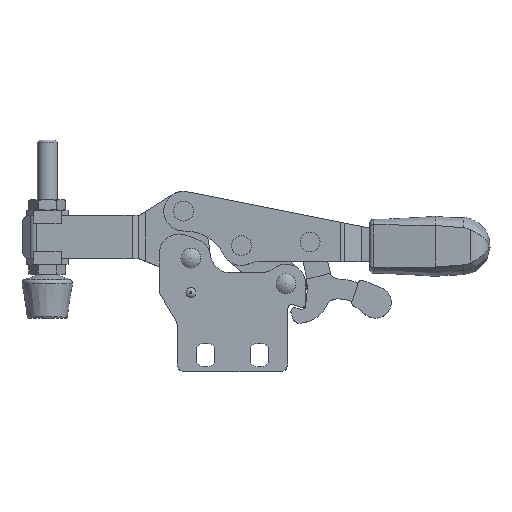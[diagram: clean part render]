
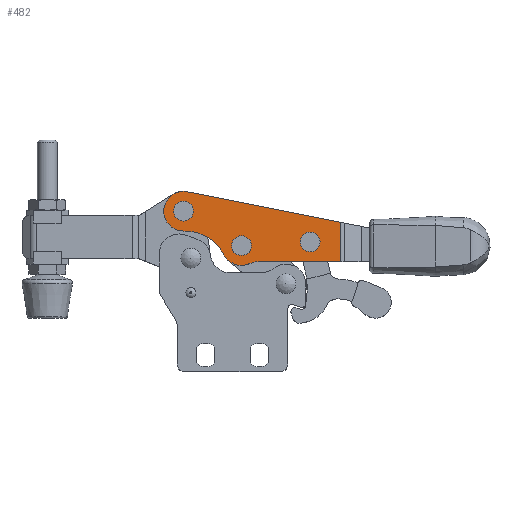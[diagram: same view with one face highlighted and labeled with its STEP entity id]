
A CAD part, top view. The second image highlights one B-rep face of the part: STEP entity #482.
In plain terms, the highlighted planar face has unit normal (0, 0, 1).
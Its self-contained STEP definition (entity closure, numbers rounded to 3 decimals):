
#482 = ADVANCED_FACE( '', ( #907, #908, #909, #910 ), #911, .T. );
#907 = FACE_OUTER_BOUND( '', #1669, .T. );
#908 = FACE_BOUND( '', #1670, .T. );
#909 = FACE_BOUND( '', #1671, .T. );
#910 = FACE_BOUND( '', #1672, .T. );
#911 = PLANE( '', #1673 );
#1669 = EDGE_LOOP( '', ( #2980, #2981, #2982, #2983, #2984, #2985, #2986 ) );
#1670 = EDGE_LOOP( '', ( #2987 ) );
#1671 = EDGE_LOOP( '', ( #2988 ) );
#1672 = EDGE_LOOP( '', ( #2989 ) );
#1673 = AXIS2_PLACEMENT_3D( '', #2990, #2991, #2992 );
#2980 = ORIENTED_EDGE( '', *, *, #4458, .F. );
#2981 = ORIENTED_EDGE( '', *, *, #4459, .T. );
#2982 = ORIENTED_EDGE( '', *, *, #4460, .T. );
#2983 = ORIENTED_EDGE( '', *, *, #4461, .F. );
#2984 = ORIENTED_EDGE( '', *, *, #4462, .T. );
#2985 = ORIENTED_EDGE( '', *, *, #4463, .F. );
#2986 = ORIENTED_EDGE( '', *, *, #4464, .T. );
#2987 = ORIENTED_EDGE( '', *, *, #4465, .F. );
#2988 = ORIENTED_EDGE( '', *, *, #4466, .F. );
#2989 = ORIENTED_EDGE( '', *, *, #4467, .F. );
#2990 = CARTESIAN_POINT( '', ( -1.876, 11.842, 4. ) );
#2991 = DIRECTION( '', ( 0., 0., 1. ) );
#2992 = DIRECTION( '', ( 1., 0., 0. ) );
#4458 = EDGE_CURVE( '', #5318, #5319, #5320, .F. );
#4459 = EDGE_CURVE( '', #5318, #5321, #5322, .T. );
#4460 = EDGE_CURVE( '', #5321, #5323, #5324, .T. );
#4461 = EDGE_CURVE( '', #5325, #5323, #5326, .T. );
#4462 = EDGE_CURVE( '', #5325, #5327, #5328, .T. );
#4463 = EDGE_CURVE( '', #5329, #5327, #5330, .T. );
#4464 = EDGE_CURVE( '', #5329, #5319, #5331, .T. );
#4465 = EDGE_CURVE( '', #5332, #5332, #5333, .T. );
#4466 = EDGE_CURVE( '', #5334, #5334, #5335, .T. );
#4467 = EDGE_CURVE( '', #5336, #5336, #5337, .T. );
#5318 = VERTEX_POINT( '', #6642 );
#5319 = VERTEX_POINT( '', #6643 );
#5320 = LINE( '', #6644, #6645 );
#5321 = VERTEX_POINT( '', #6646 );
#5322 = LINE( '', #6647, #6648 );
#5323 = VERTEX_POINT( '', #6649 );
#5324 = CIRCLE( '', #6650, 5. );
#5325 = VERTEX_POINT( '', #6651 );
#5326 = CIRCLE( '', #6652, 11. );
#5327 = VERTEX_POINT( '', #6653 );
#5328 = CIRCLE( '', #6654, 5. );
#5329 = VERTEX_POINT( '', #6655 );
#5330 = CIRCLE( '', #6656, 5. );
#5331 = LINE( '', #6657, #6658 );
#5332 = VERTEX_POINT( '', #6659 );
#5333 = CIRCLE( '', #6660, 2.5 );
#5334 = VERTEX_POINT( '', #6661 );
#5335 = CIRCLE( '', #6662, 2.5 );
#5336 = VERTEX_POINT( '', #6663 );
#5337 = CIRCLE( '', #6664, 2.5 );
#6642 = CARTESIAN_POINT( '', ( 37.744, 9.056, 4. ) );
#6643 = CARTESIAN_POINT( '', ( 37.745, -0.914, 4. ) );
#6644 = CARTESIAN_POINT( '', ( 37.747, -20.914, 4. ) );
#6645 = VECTOR( '', #8150, 1000. );
#6646 = CARTESIAN_POINT( '', ( -0.9, 16.746, 4. ) );
#6647 = CARTESIAN_POINT( '', ( 45.125, 7.587, 4. ) );
#6648 = VECTOR( '', #8151, 1000. );
#6649 = CARTESIAN_POINT( '', ( -1.742, 6.844, 4. ) );
#6650 = AXIS2_PLACEMENT_3D( '', #8152, #8153, #8154 );
#6651 = CARTESIAN_POINT( '', ( 8.337, 0.873, 4. ) );
#6652 = AXIS2_PLACEMENT_3D( '', #8155, #8156, #8157 );
#6653 = CARTESIAN_POINT( '', ( 14.887, -1.379, 4. ) );
#6654 = AXIS2_PLACEMENT_3D( '', #8158, #8159, #8160 );
#6655 = CARTESIAN_POINT( '', ( 16.99, -0.916, 4. ) );
#6656 = AXIS2_PLACEMENT_3D( '', #8161, #8162, #8163 );
#6657 = CARTESIAN_POINT( '', ( 16.99, -0.916, 4. ) );
#6658 = VECTOR( '', #8164, 1000. );
#6659 = CARTESIAN_POINT( '', ( 0.624, 11.842, 4. ) );
#6660 = AXIS2_PLACEMENT_3D( '', #8165, #8166, #8167 );
#6661 = CARTESIAN_POINT( '', ( 15.285, 3.157, 4. ) );
#6662 = AXIS2_PLACEMENT_3D( '', #8168, #8169, #8170 );
#6663 = CARTESIAN_POINT( '', ( 32.625, 4.085, 4. ) );
#6664 = AXIS2_PLACEMENT_3D( '', #8171, #8172, #8173 );
#8150 = DIRECTION( '', ( 0., 1., 0. ) );
#8151 = DIRECTION( '', ( -0.981, 0.195, 0. ) );
#8152 = CARTESIAN_POINT( '', ( -1.876, 11.842, 4. ) );
#8153 = DIRECTION( '', ( 0., 0., 1. ) );
#8154 = DIRECTION( '', ( 1., 0., 0. ) );
#8155 = CARTESIAN_POINT( '', ( -1.448, -4.152, 4. ) );
#8156 = DIRECTION( '', ( 0., 0., 1. ) );
#8157 = DIRECTION( '', ( 1., 0., 0. ) );
#8158 = CARTESIAN_POINT( '', ( 12.785, 3.157, 4. ) );
#8159 = DIRECTION( '', ( 0., 0., 1. ) );
#8160 = DIRECTION( '', ( 1., 0., 0. ) );
#8161 = CARTESIAN_POINT( '', ( 16.99, -5.916, 4. ) );
#8162 = DIRECTION( '', ( 0., 0., 1. ) );
#8163 = DIRECTION( '', ( 1., 0., 0. ) );
#8164 = DIRECTION( '', ( 1., 0., 0. ) );
#8165 = CARTESIAN_POINT( '', ( -1.876, 11.842, 4. ) );
#8166 = DIRECTION( '', ( 0., 0., 1. ) );
#8167 = DIRECTION( '', ( 1., 0., 0. ) );
#8168 = CARTESIAN_POINT( '', ( 12.785, 3.157, 4. ) );
#8169 = DIRECTION( '', ( 0., 0., 1. ) );
#8170 = DIRECTION( '', ( 1., 0., 0. ) );
#8171 = CARTESIAN_POINT( '', ( 30.125, 4.085, 4. ) );
#8172 = DIRECTION( '', ( 0., 0., 1. ) );
#8173 = DIRECTION( '', ( 1., 0., 0. ) );
